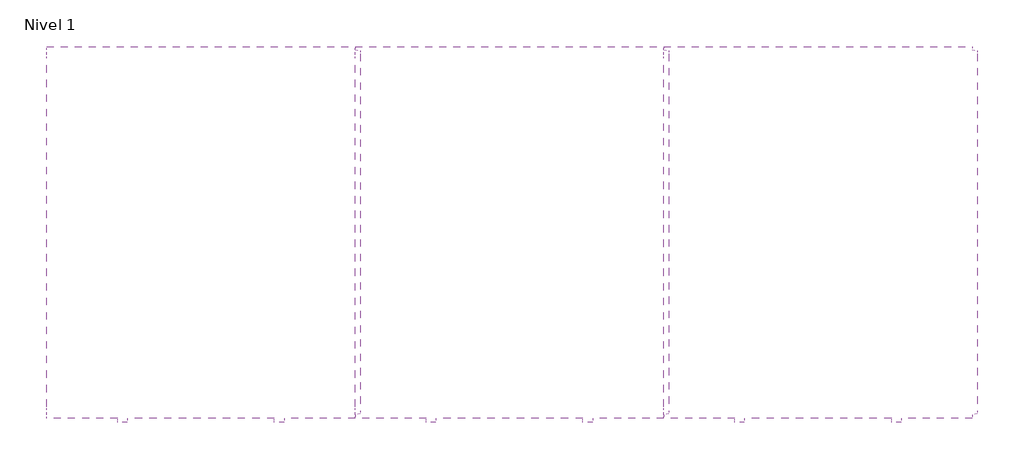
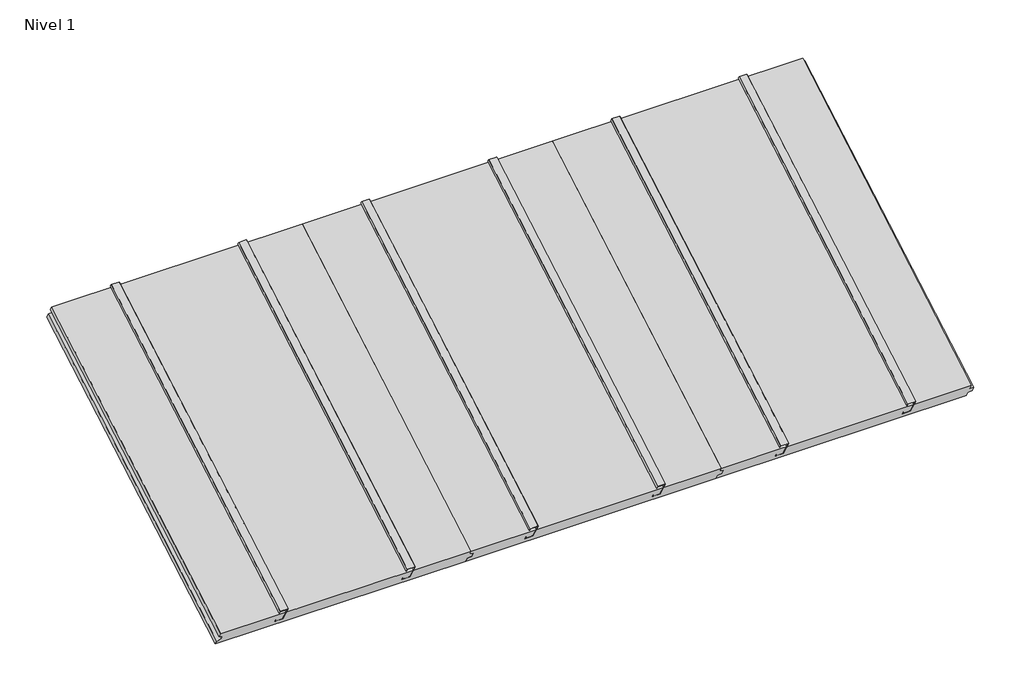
# One storey: 3 plates.
"""IFC4 building model written with IfcOpenShell, lengths in millimetres."""

from ifc_helpers import new_model, si_unit, origin, place, context, project, spatial, transform, mapped, element, save
from components import panel_tst_10_tst_10_80ced89f

model = new_model("IFC4")

# Units and contexts
model_context = context("Model", 3, world=origin())
ifc_project = project(units=[si_unit("LENGTHUNIT", "METRE", prefix="MILLI")], contexts=[model_context])

# Site, building, storey
site = spatial("IfcSite", under=ifc_project)
building = spatial("IfcBuilding", under=site)
storey = spatial("IfcBuildingStorey", under=building, Name="Nivel 1", Elevation=0.0)

# Plates
placement = place(None, origin())
panel_tst_10_tst_10_shape = panel_tst_10_tst_10_80ced89f(model_context)
element("IfcPlate", 1, ObjectType="Panel TST - 10 : TST 10", at=placement, inside=storey, context=model_context, shape_type="MappedRepresentation", body=[
    mapped(panel_tst_10_tst_10_shape, transform((35007.6660286, 12164.8142715, 1500.0), x_axis=(1.0, 0.0, 0.0), y_axis=(0.0, 0.49999999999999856, -0.8660254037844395), z_axis=(0.0, 0.8660254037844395, 0.49999999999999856))),
])
element("IfcPlate", 2, ObjectType="Panel TST - 10 : TST 10", at=placement, inside=storey, context=model_context, shape_type="MappedRepresentation", body=[
    mapped(panel_tst_10_tst_10_shape, transform((36207.6660288, 12164.8142715, 1500.0), x_axis=(1.0, 0.0, 0.0), y_axis=(0.0, 0.49999999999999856, -0.8660254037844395), z_axis=(0.0, 0.8660254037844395, 0.49999999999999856))),
])
element("IfcPlate", 3, ObjectType="Panel TST - 10 : TST 10", at=placement, inside=storey, context=model_context, shape_type="MappedRepresentation", body=[
    mapped(panel_tst_10_tst_10_shape, transform((37407.6660288, 12164.8142715, 1500.0), x_axis=(1.0, 0.0, 0.0), y_axis=(0.0, 0.49999999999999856, -0.8660254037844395), z_axis=(0.0, 0.8660254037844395, 0.49999999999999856))),
])

save(model, "model.ifc")
